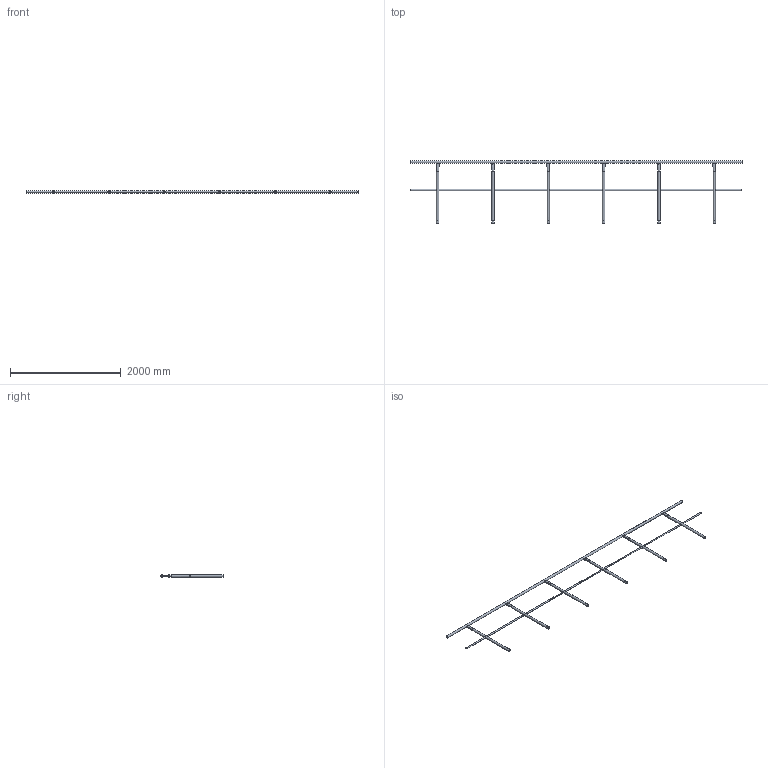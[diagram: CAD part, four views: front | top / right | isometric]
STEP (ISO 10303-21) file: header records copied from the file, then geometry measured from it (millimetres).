
FILE_DESCRIPTION((''),'2;1');
FILE_NAME('S:\Användarkataloger\AndreasA\Mina Inventor filer\Räcken\STEP\stormodul_ind_6000-1100.stp','2010-09-07T13:39:41',('AndreasA'),(''),'Autodesk Inventor 2011','Autodesk Inventor 2011','');
FILE_SCHEMA(('AUTOMOTIVE_DESIGN { 1 0 10303 214 1 1 1 1 }'));
Length unit declared in the file: millimetre
Products named in the file (5): stormodul_ind_6000-1100; handledare_stormodul_6000; stolpe_stormodul_1100; mellanliggare_stormodul_958; mellanliggare_stormodul_479
Assembly tree (14 placements, depth 2):
  stormodul_ind_6000-1100
    handledare_stormodul_6000
    stolpe_stormodul_1100  x6
    mellanliggare_stormodul_958  x5
    mellanliggare_stormodul_479  x2
Bounding box: 6000 x 1121.2 x 42.4 mm (x, y, z)
Volume: 3993125.1 mm3; surface area: 4000814.5 mm2
Topology: 14 solids, 14 shells, 128 faces, 360 edges, 260 vertices
Faces by surface type: cylinder 52, bspline 48, plane 28
Full cylindrical faces by diameter (mm): 10 x24, 21 x7, 25 x7, 38.4 x7, 42.4 x7
Entity records: 1860 total; most frequent: CARTESIAN_POINT 1031, DIRECTION 148, ORIENTED_EDGE 112, AXIS2_PLACEMENT_3D 73, EDGE_CURVE 56, EDGE_LOOP 56, VERTEX_POINT 48, CIRCLE 34
